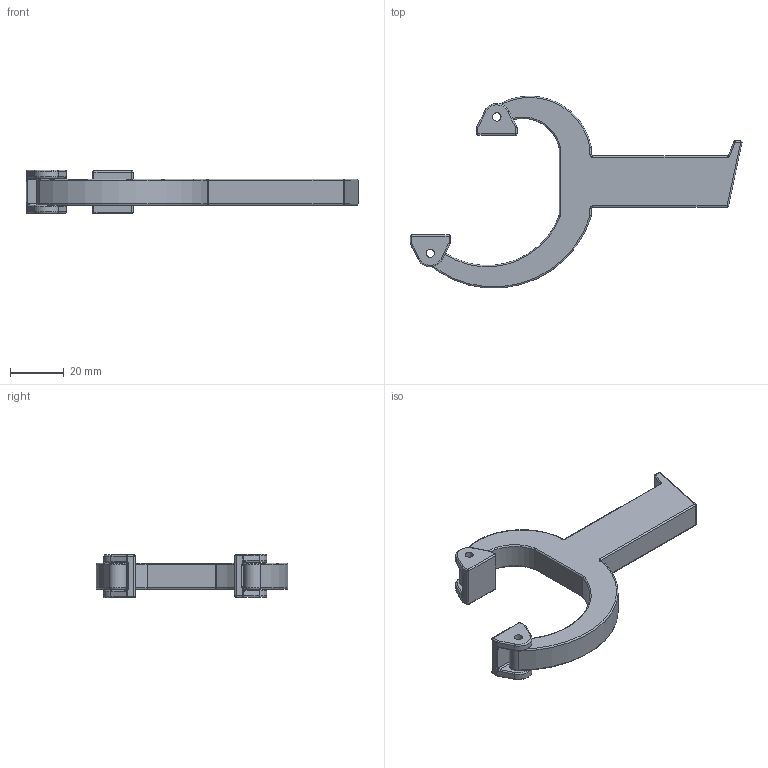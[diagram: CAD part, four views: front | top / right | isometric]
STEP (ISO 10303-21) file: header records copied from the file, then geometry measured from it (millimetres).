
FILE_DESCRIPTION(/* description */ (''),/* implementation_level */ '2;1');
FILE_NAME(/* name */ 'Doorway Hanger Helper v2.step',/* time_stamp */ '2023-04-27T17:34:31-06:00',/* author */ (''),/* organization */ (''),/* preprocessor_version */ 'ST-DEVELOPER v19.2',/* originating_system */ 'Autodesk Translation Framework v12.4.0.73',/* authorisation */ '');
FILE_SCHEMA (('AUTOMOTIVE_DESIGN { 1 0 10303 214 3 1 1 }'));
Length unit declared in the file: millimetre
Products named in the file (1): Doorway Hanger
Bounding box: 123.25 x 71.21 x 16.18 mm (x, y, z)
Volume: 24607.5 mm3; surface area: 10564.9 mm2
Topology: 3 solids, 3 shells, 244 faces, 552 edges, 314 vertices
Faces by surface type: cylinder 90, bspline 64, plane 34, torus 30, sphere 26
Full cylindrical faces by diameter (mm): 3.1 x2, 3.12 x4
Entity records: 13137 total; most frequent: CARTESIAN_POINT 7879, ORIENTED_EDGE 1104, DIRECTION 1076, EDGE_CURVE 552, AXIS2_PLACEMENT_3D 455, VERTEX_POINT 314, CIRCLE 274, EDGE_LOOP 256
